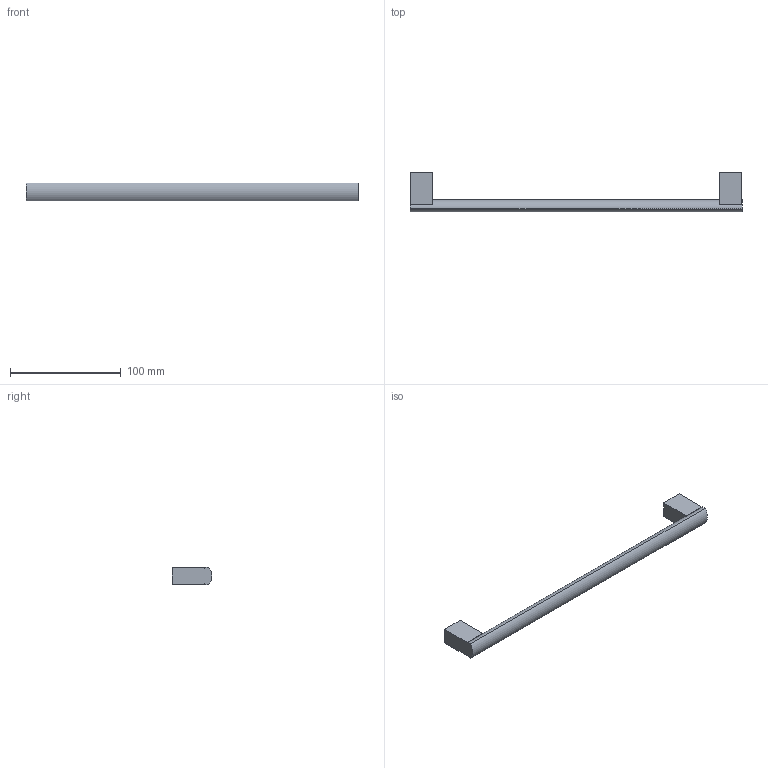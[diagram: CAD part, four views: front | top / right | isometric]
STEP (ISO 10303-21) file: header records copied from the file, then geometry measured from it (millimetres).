
FILE_DESCRIPTION( ( 'STEP AP214' ), '1' );
FILE_NAME( 'D:/Shahbaz D&D/Task/Check and correct handles with 3 drill sockets/Clivia/115208.stp', '2023-02-20T10:45:53', ( '' ), ( '' ), ' ', 'PARTsolutions', ' ' );
FILE_SCHEMA( ( 'AUTOMOTIVE_DESIGN { 1 0 10303 214 1 1 1 1 }' ) );
Length unit declared in the file: millimetre
Products named in the file (1): _115208
Bounding box: 300 x 35.96 x 16 mm (x, y, z)
Volume: 55650.9 mm3; surface area: 17124.1 mm2
Topology: 1 solids, 1 shells, 21 faces, 48 edges, 32 vertices
Faces by surface type: plane 17, cylinder 4
Full cylindrical faces by diameter (mm): 4 x2
Entity records: 768 total; most frequent: DIRECTION 102, CARTESIAN_POINT 100, ORIENTED_EDGE 92, EDGE_CURVE 46, AXIS2_PLACEMENT_3D 34, LINE 34, VECTOR 34, VERTEX_POINT 32
